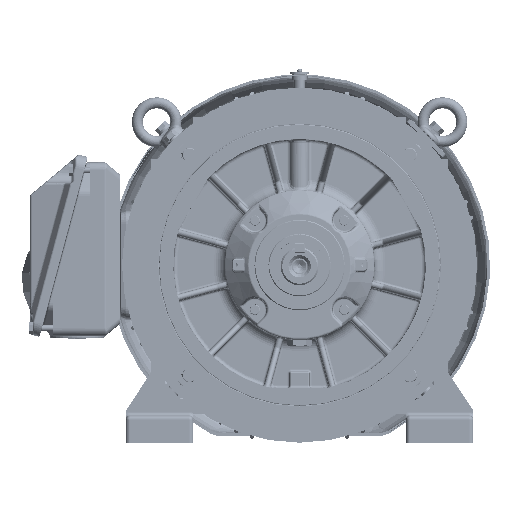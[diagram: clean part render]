
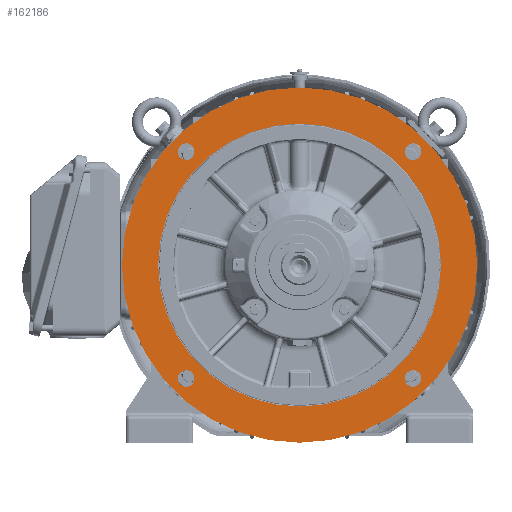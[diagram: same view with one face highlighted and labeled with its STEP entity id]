
A CAD part, front view. The second image highlights one B-rep face of the part: STEP entity #162186.
In plain terms, the highlighted planar face has unit normal (0, -1, 0).
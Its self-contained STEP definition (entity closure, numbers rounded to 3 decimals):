
#49344=ORIENTED_EDGE('',*,*,#91393,.F.);
#49345=ORIENTED_EDGE('',*,*,#91392,.F.);
#49346=ORIENTED_EDGE('',*,*,#91391,.F.);
#49347=ORIENTED_EDGE('',*,*,#91394,.F.);
#49348=ORIENTED_EDGE('',*,*,#92230,.F.);
#49349=ORIENTED_EDGE('',*,*,#92229,.F.);
#91391=EDGE_CURVE('',#113810,#113810,#127553,.T.);
#91392=EDGE_CURVE('',#113811,#113811,#127554,.T.);
#91393=EDGE_CURVE('',#113812,#113812,#127555,.T.);
#91394=EDGE_CURVE('',#113813,#113813,#127556,.T.);
#92229=EDGE_CURVE('',#114320,#114320,#127728,.T.);
#92230=EDGE_CURVE('',#114321,#114321,#127729,.T.);
#113810=VERTEX_POINT('',#249246);
#113811=VERTEX_POINT('',#249249);
#113812=VERTEX_POINT('',#249252);
#113813=VERTEX_POINT('',#249255);
#114320=VERTEX_POINT('',#252847);
#114321=VERTEX_POINT('',#252850);
#127553=CIRCLE('',#173165,10.5);
#127554=CIRCLE('',#173167,10.5);
#127555=CIRCLE('',#173169,10.5);
#127556=CIRCLE('',#173171,10.5);
#127728=CIRCLE('',#173763,224.995);
#127729=CIRCLE('',#173765,179.2);
#133557=EDGE_LOOP('',(#49344));
#133558=EDGE_LOOP('',(#49345));
#133559=EDGE_LOOP('',(#49346));
#133560=EDGE_LOOP('',(#49347));
#133561=EDGE_LOOP('',(#49348));
#133562=EDGE_LOOP('',(#49349));
#145379=FACE_BOUND('',#133557,.T.);
#145380=FACE_BOUND('',#133558,.T.);
#145381=FACE_BOUND('',#133559,.T.);
#145382=FACE_BOUND('',#133560,.T.);
#145383=FACE_BOUND('',#133561,.T.);
#145384=FACE_BOUND('',#133562,.T.);
#155717=PLANE('',#173764);
#162186=ADVANCED_FACE('',(#145379,#145380,#145381,#145382,#145383,#145384),
#155717,.F.);
#173165=AXIS2_PLACEMENT_3D('',#249245,#193555,#193556);
#173167=AXIS2_PLACEMENT_3D('',#249248,#193559,#193560);
#173169=AXIS2_PLACEMENT_3D('',#249251,#193563,#193564);
#173171=AXIS2_PLACEMENT_3D('',#249254,#193567,#193568);
#173763=AXIS2_PLACEMENT_3D('',#252846,#195190,#195191);
#173764=AXIS2_PLACEMENT_3D('',#252848,#195192,#195193);
#173765=AXIS2_PLACEMENT_3D('',#252849,#195194,#195195);
#193555=DIRECTION('',(0.,-1.,0.));
#193556=DIRECTION('',(1.,0.,0.));
#193559=DIRECTION('',(0.,-1.,0.));
#193560=DIRECTION('',(1.,0.,0.));
#193563=DIRECTION('',(0.,-1.,0.));
#193564=DIRECTION('',(1.,0.,0.));
#193567=DIRECTION('',(0.,-1.,0.));
#193568=DIRECTION('',(1.,0.,0.));
#195190=DIRECTION('',(0.,1.,0.));
#195191=DIRECTION('',(-1.,0.,0.));
#195192=DIRECTION('',(0.,1.,0.));
#195193=DIRECTION('',(-1.,0.,0.));
#195194=DIRECTION('',(0.,-1.,0.));
#195195=DIRECTION('',(1.,0.,0.));
#249245=CARTESIAN_POINT('',(-143.684,-85.5,-143.684));
#249246=CARTESIAN_POINT('',(-133.184,-85.5,-143.684));
#249248=CARTESIAN_POINT('',(143.684,-85.5,-143.684));
#249249=CARTESIAN_POINT('',(154.184,-85.5,-143.684));
#249251=CARTESIAN_POINT('',(143.684,-85.5,143.684));
#249252=CARTESIAN_POINT('',(154.184,-85.5,143.684));
#249254=CARTESIAN_POINT('',(-143.684,-85.5,143.684));
#249255=CARTESIAN_POINT('',(-133.184,-85.5,143.684));
#252846=CARTESIAN_POINT('',(0.,-85.5,0.));
#252847=CARTESIAN_POINT('',(-224.995,-85.5,0.));
#252848=CARTESIAN_POINT('',(-179.2,-85.5,0.));
#252849=CARTESIAN_POINT('',(0.,-85.5,0.));
#252850=CARTESIAN_POINT('',(179.2,-85.5,0.));
